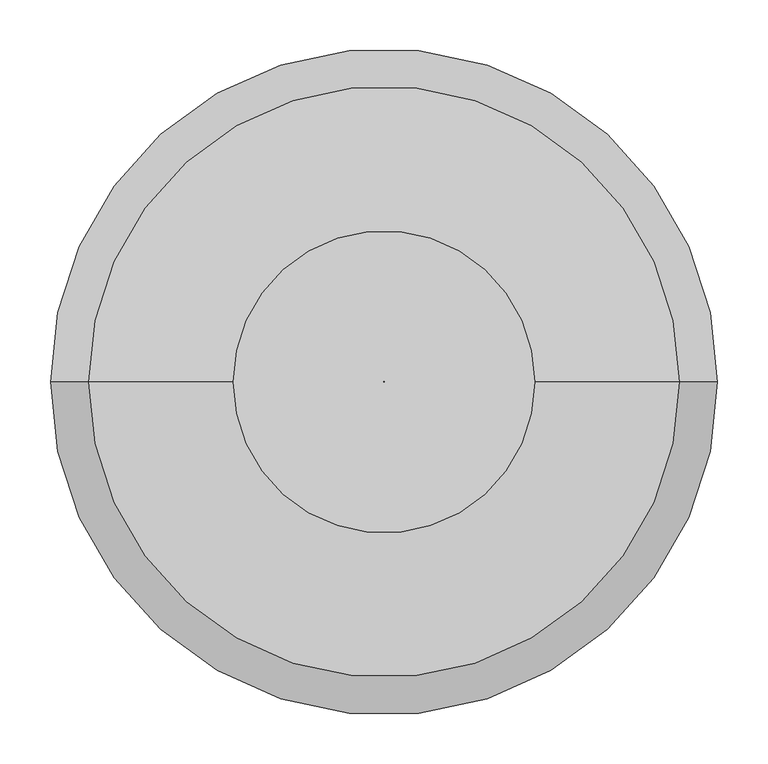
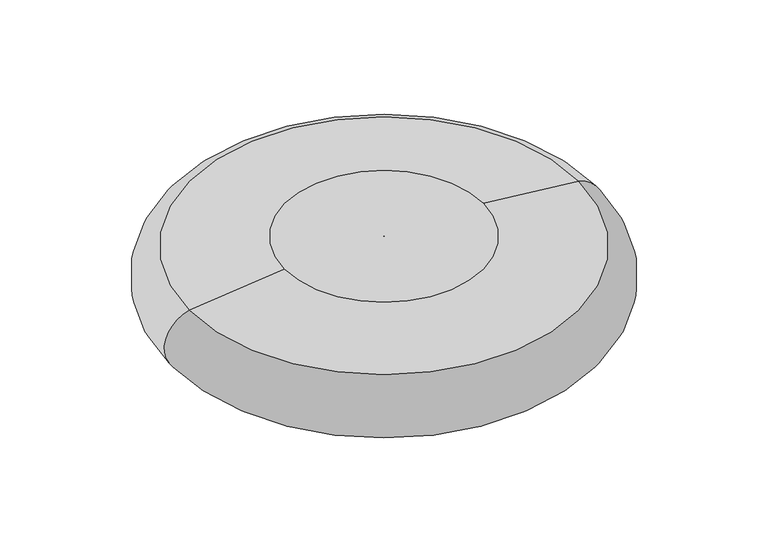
"""IFC4 building model written with IfcOpenShell, lengths in millimetres: proxy geometry, COJIN8 : COJIN."""

from ifc_helpers import new_model, si_unit, point, frame, origin, place, context, project, spatial, polyline, circle_curve, ellipse_curve, trimmed, source, transform, mapped, element, save
from ifc_brep_helpers import plane_surface, revolved_surface, advanced_brep


def generic_models_1510f7ba(model_context):
    return source(origin(), model_context, "Body", "AdvancedBrep", [
        advanced_brep(
        [(13127.448837, 9662.1600112, -501.6165305), (12542.2141856, 9662.1600112, -501.6165305), (12554.856693, 9662.1600112, -599.9918032), (13114.8063296, 9662.1600112, -599.9918032), (12984.3588643, 9662.1600112, -486.7804137), (12685.3041583, 9662.1600112, -486.7804137), (12835.148724, 9662.1600112, -599.9918032), (12834.5142986, 9662.1600112, -599.9918032), (12834.5142986, 9662.1600112, -486.7804137), (12835.148724, 9662.1600112, -486.7804137)],
        [
            (0, 1, circle_curve(frame((12834.8315113, 9662.1600112, -501.6165305), z_axis=(0.0, 0.0, -1.0), x_axis=(-1.0, 0.0, 0.0)), 292.6173257)),
            (1, 2, circle_curve(frame((12554.856693, 9662.1600112, -549.9918032), z_axis=(0.0, -1.0, 0.0), x_axis=(1.0, 0.0, 0.0)), 50.0)),
            (2, 3, circle_curve(frame((12834.8315113, 9662.1600112, -599.9918032), z_axis=(0.0, 0.0, 1.0), x_axis=(-1.0, 0.0, 0.0)), 279.9748183)),
            (3, 0, circle_curve(frame((13114.8063296, 9662.1600112, -549.9918032), z_axis=(0.0, -1.0, 0.0), x_axis=(-1.0, 0.0, 0.0)), 50.0)),
            (4, 5, circle_curve(frame((12834.8315113, 9662.1600112, -486.7804137), z_axis=(0.0, 0.0, -1.0), x_axis=(-1.0, 0.0, 0.0)), 149.527353)),
            (5, 1),
            (0, 4),
            (6, 7, circle_curve(frame((12834.8315113, 9662.1600112, -599.9918032), z_axis=(0.0, 0.0, -1.0), x_axis=(-1.0, 0.0, 0.0)), 0.3172127)),
            (7, 8),
            (8, 9, circle_curve(frame((12834.8315113, 9662.1600112, -486.7804137), z_axis=(0.0, 0.0, 1.0), x_axis=(-1.0, 0.0, 0.0)), 0.3172127)),
            (9, 6),
            (1, 0, circle_curve(frame((12834.8315113, 9662.1600112, -501.6165305), z_axis=(0.0, 0.0, -1.0), x_axis=(1.0, 0.0, 0.0)), 292.6173257)),
            (3, 2, circle_curve(frame((12834.8315113, 9662.1600112, -599.9918032), z_axis=(0.0, 0.0, 1.0), x_axis=(1.0, 0.0, 0.0)), 279.9748183)),
            (5, 4, circle_curve(frame((12834.8315113, 9662.1600112, -486.7804137), z_axis=(0.0, 0.0, -1.0), x_axis=(1.0, 0.0, 0.0)), 149.527353)),
            (8, 9, circle_curve(frame((12834.8315113, 9662.1600112, -486.7804137), z_axis=(0.0, 0.0, -1.0), x_axis=(1.0, 0.0, 0.0)), 0.3172127)),
            (7, 6, circle_curve(frame((12834.8315113, 9662.1600112, -599.9918032), z_axis=(0.0, 0.0, -1.0), x_axis=(1.0, 0.0, 0.0)), 0.3172127)),
        ],
        [
            revolved_surface(trimmed(ellipse_curve(frame((12554.856693, 9662.1600112, -549.9918032), z_axis=(0.0, 1.0, 0.0), x_axis=(1.0, 0.0, 0.0)), 50.0, 50.0), [point((12554.856693, 9662.1600112, -599.9918032))], [point((12542.2141856, 9662.1600112, -501.6165305))], True, "CARTESIAN"), (12834.8315113, 9662.1600112, 0.0), (0.0, 0.0, 1.0)),
            revolved_surface(polyline([(12542.2141856, 9662.1600112, -501.6165305), (12685.3041583, 9662.1600112, -486.7804137)]), (12834.8315113, 9662.1600112, 0.0), (0.0, 0.0, 1.0)),
            revolved_surface(polyline([(12834.514298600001, 9662.1600112, -486.7804137), (12834.514298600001, 9662.1600112, -599.9918032)]), (12834.8315113, 9662.1600112, 0.0), (0.0, 0.0, 1.0)),
            revolved_surface(trimmed(ellipse_curve(frame((13114.8063296, 9662.1600112, -549.9918032), z_axis=(0.0, -1.0, 0.0), x_axis=(-1.0, 0.0, 0.0)), 50.0, 50.0), [point((13114.8063296, 9662.1600112, -599.9918032))], [point((13127.448837, 9662.1600112, -501.6165305))], True, "CARTESIAN"), (12834.8315113, 9662.1600112, 0.0), (0.0, 0.0, 1.0)),
            revolved_surface(polyline([(13127.448837, 9662.1600112, -501.6165305), (12984.3588643, 9662.1600112, -486.7804137)]), (12834.8315113, 9662.1600112, 0.0), (0.0, 0.0, 1.0)),
            plane_surface(frame((12834.8315113, 9662.1600112, -486.7804137), z_axis=(0.0, 0.0, 1.0), x_axis=(1.0, 0.0, 0.0))),
            revolved_surface(polyline([(12835.148724, 9662.1600112, -486.7804137), (12835.148724, 9662.1600112, -599.9918032)]), (12834.8315113, 9662.1600112, 0.0), (0.0, 0.0, 1.0)),
            plane_surface(frame((12834.8315113, 9662.1600112, -599.9918032), z_axis=(0.0, 0.0, -1.0), x_axis=(1.0, 0.0, 0.0))),
        ],
        [
            (0, [[1, 2, 3, 4]]),
            (1, [[5, 6, -1, 7]]),
            (2, [[8, 9, 10, 11]]),
            (3, [[12, -4, 13, -2]]),
            (4, [[14, -7, -12, -6]]),
            (5, [[-14, -5], [15, -10]]),
            (6, [[16, -11, -15, -9]]),
            (7, [[-13, -3], [-16, -8]]),
        ],
    ),
    ])


if __name__ == "__main__":
    model = new_model("IFC4")
    model_context = context("Model", 3, world=origin())
    ifc_project = project(units=[si_unit("LENGTHUNIT", "METRE", prefix="MILLI")], contexts=[model_context])
    site = spatial("IfcSite", under=ifc_project)
    building = spatial("IfcBuilding", under=site)
    placement = place(None, origin())
    generic_models_shape = generic_models_1510f7ba(model_context)
    element("IfcBuildingElementProxy", 1, Name="COJIN8 : COJIN", ObjectType="COJIN8 : COJIN", at=placement, inside=building, context=model_context, shape_type="MappedRepresentation", body=[
        mapped(generic_models_shape, transform((0.0, 0.0, 0.0), x_axis=(1.0, 0.0, 0.0), y_axis=(0.0, 1.0, 0.0), z_axis=(0.0, 0.0, 1.0))),
    ])
    save(model, "model.ifc")
